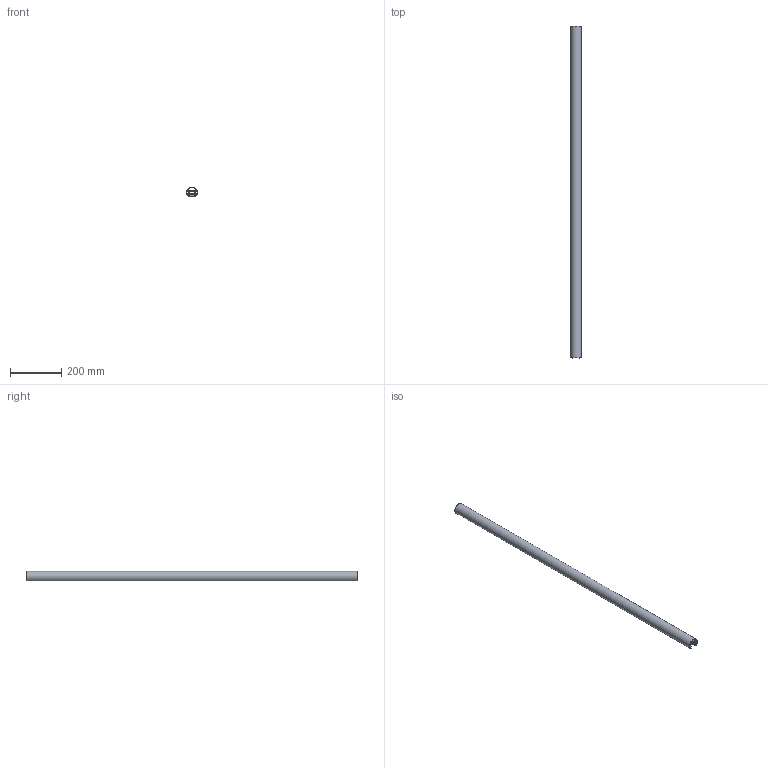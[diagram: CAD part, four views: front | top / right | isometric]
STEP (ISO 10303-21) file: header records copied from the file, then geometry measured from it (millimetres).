
FILE_DESCRIPTION(/* description */ ('STEP AP214'),/* implementation_level */ '2;1');
FILE_NAME(/* name */ '66fd4a9b7202d813c79aab08',/* time_stamp */ '2024-10-02T13:29:02Z',/* author */ (''),/* organization */ (''),/* preprocessor_version */ 'ST-DEVELOPER v20',/* originating_system */ ' ',/* authorisation */ ' ');
FILE_SCHEMA (('AUTOMOTIVE_DESIGN {1 0 10303 214 3 1 1}'));
Length unit declared in the file: metre
Products named in the file (5): ULTRA-SAFE-42.4-Lilly-sym-asym; A000422_k; A001148; Lilly vereinfacht; A001179
Assembly tree (4 placements, depth 2):
  ULTRA-SAFE-42.4-Lilly-sym-asym
    A000422_k
    A001148
    Lilly vereinfacht
    A001179
Bounding box: 42.37 x 1300 x 37 mm (x, y, z)
Volume: 773372.3 mm3; surface area: 615852.8 mm2
Topology: 4 solids, 4 shells, 180 faces, 474 edges, 305 vertices
Faces by surface type: plane 95, cylinder 77, bspline 8
Full cylindrical faces by diameter (mm): 4 x2, 4.2 x4, 5 x3, 6.6 x2
Entity records: 6880 total; most frequent: CARTESIAN_POINT 2307, DIRECTION 932, ORIENTED_EDGE 912, EDGE_CURVE 456, AXIS2_PLACEMENT_3D 315, LINE 302, VECTOR 302, VERTEX_POINT 298
